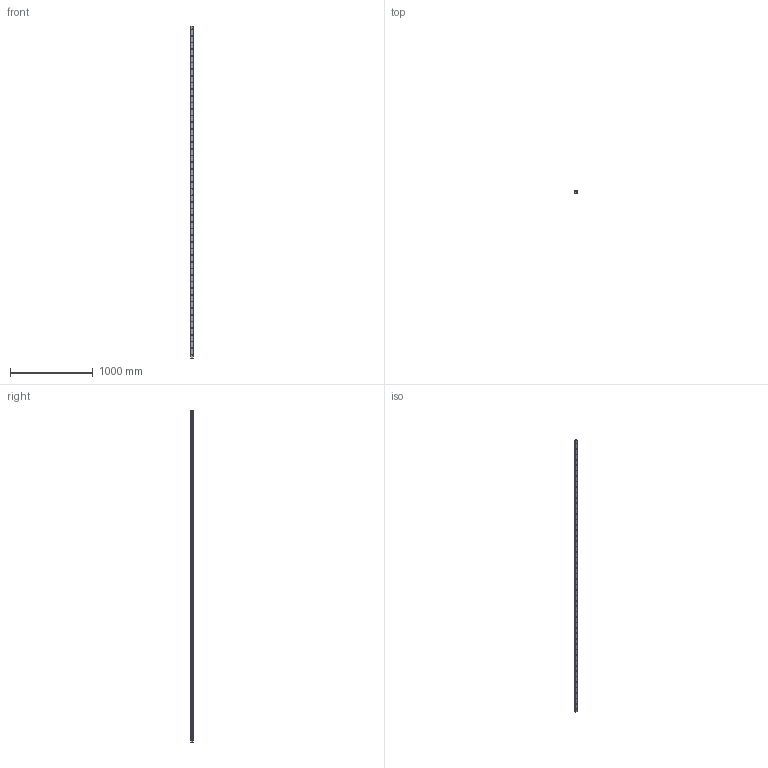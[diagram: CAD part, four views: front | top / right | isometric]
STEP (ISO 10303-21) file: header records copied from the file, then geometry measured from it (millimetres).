
FILE_DESCRIPTION (( 'STEP AP203' ), '1' );
FILE_NAME ('TR30-4000.STEP', '2019-05-29T10:32:17', ( '' ), ( '' ), 'SwSTEP 2.0', 'SolidWorks 2016', '' );
FILE_SCHEMA (( 'CONFIG_CONTROL_DESIGN' ));
Length unit declared in the file: millimetre
Products named in the file (1): TR30-4000
Bounding box: 28 x 26 x 4000 mm (x, y, z)
Volume: 2529151.3 mm3; surface area: 465645.7 mm2
Topology: 1 solids, 1 shells, 376 faces, 872 edges, 498 vertices
Faces by surface type: cylinder 206, cone 100, plane 70
Entity records: 10105 total; most frequent: DIRECTION 1938, CARTESIAN_POINT 1647, ORIENTED_EDGE 1544, AXIS2_PLACEMENT_3D 789, EDGE_CURVE 772, VERTEX_POINT 498, EDGE_LOOP 476, CIRCLE 412
